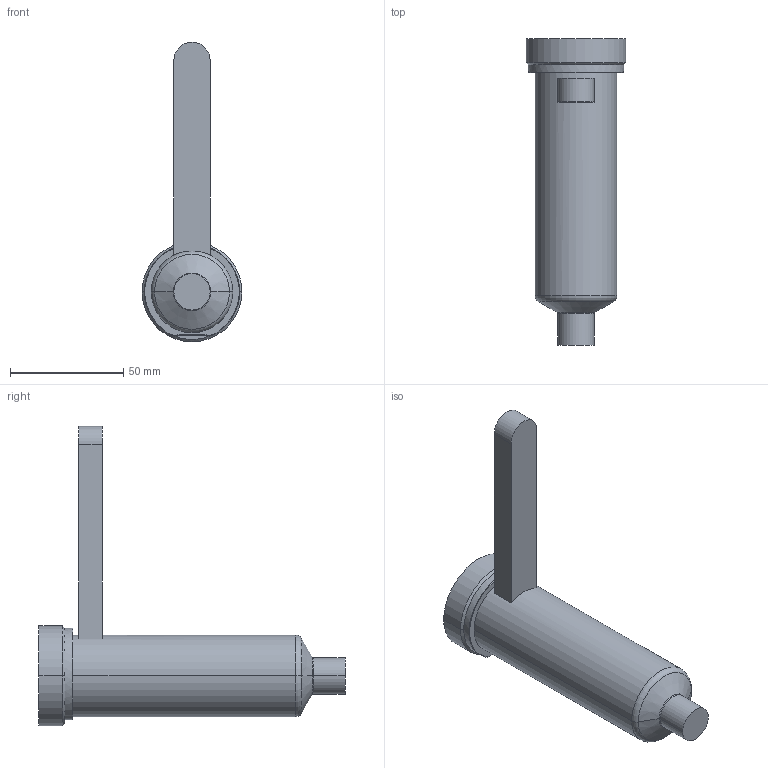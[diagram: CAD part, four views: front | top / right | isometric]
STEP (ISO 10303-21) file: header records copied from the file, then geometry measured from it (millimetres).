
FILE_DESCRIPTION((''),'2;1');
FILE_NAME('EO12_VG-ST_ESG_110_COT','2024-02-19T12:53:05',('sundharh'),(''),'CREO PARAMETRIC BY PTC INC, 2023154','CREO PARAMETRIC BY PTC INC, 2023154','');
FILE_SCHEMA(('CONFIG_CONTROL_DESIGN'));
Length unit declared in the file: millimetre
Products named in the file (1): EO12_VG-ST_ESG_110_COT
Bounding box: 44 x 135 x 132 mm (x, y, z)
Volume: 145223.7 mm3; surface area: 21906.8 mm2
Topology: 1 solids, 1 shells, 31 faces, 67 edges, 40 vertices
Faces by surface type: cylinder 11, plane 9, torus 7, cone 4
Entity records: 951 total; most frequent: CARTESIAN_POINT 218, DIRECTION 159, ORIENTED_EDGE 134, AXIS2_PLACEMENT_3D 67, EDGE_CURVE 67, VERTEX_POINT 40, CIRCLE 36, EDGE_LOOP 33
